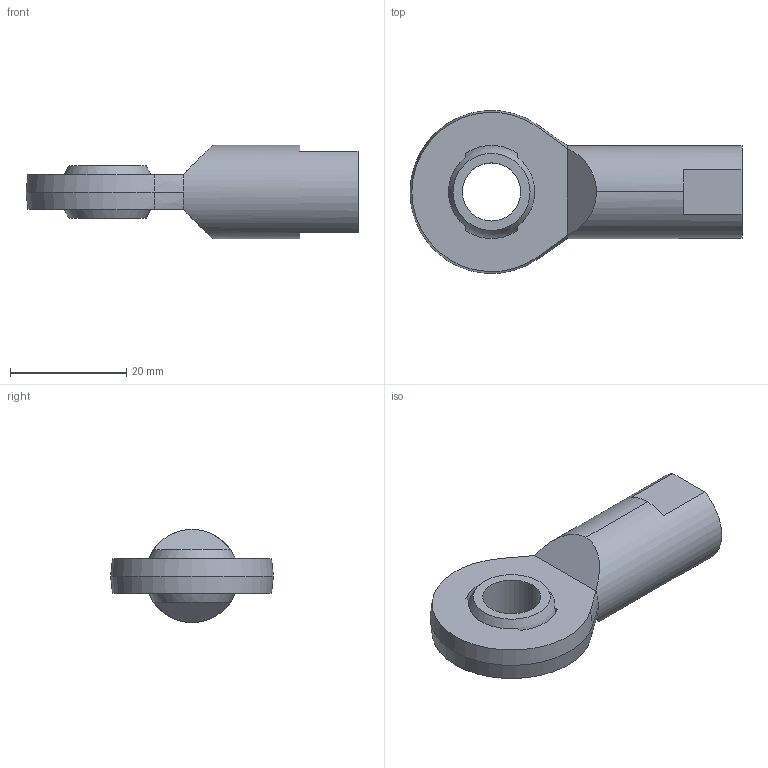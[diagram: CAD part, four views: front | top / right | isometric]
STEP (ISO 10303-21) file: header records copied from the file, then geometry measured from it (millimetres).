
FILE_DESCRIPTION (( 'STEP AP203' ), '1' );
FILE_NAME ('65880.W0111.step', '2014-02-06T18:34:51', ( 'User' ), ( '' ), 'SwSTEP 2.0', 'SolidWorks 2009', '' );
FILE_SCHEMA (( 'CONFIG_CONTROL_DESIGN' ));
Length unit declared in the file: millimetre
Products named in the file (3): 65880.W0111; Part1_65880.W0111; Part2_65880.W0111
Assembly tree (2 placements, depth 2):
  65880.W0111
    Part1_65880.W0111
    Part2_65880.W0111
Bounding box: 57 x 27.95 x 16 mm (x, y, z)
Volume: 7296.5 mm3; surface area: 4831.5 mm2
Topology: 2 solids, 2 shells, 45 faces, 108 edges, 67 vertices
Faces by surface type: plane 20, cylinder 10, sphere 8, cone 7
Entity records: 1616 total; most frequent: DIRECTION 253, CARTESIAN_POINT 245, ORIENTED_EDGE 208, AXIS2_PLACEMENT_3D 107, EDGE_CURVE 104, VERTEX_POINT 67, CIRCLE 57, EDGE_LOOP 53
